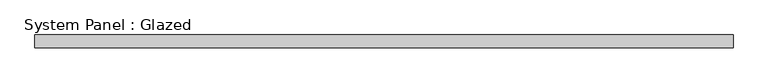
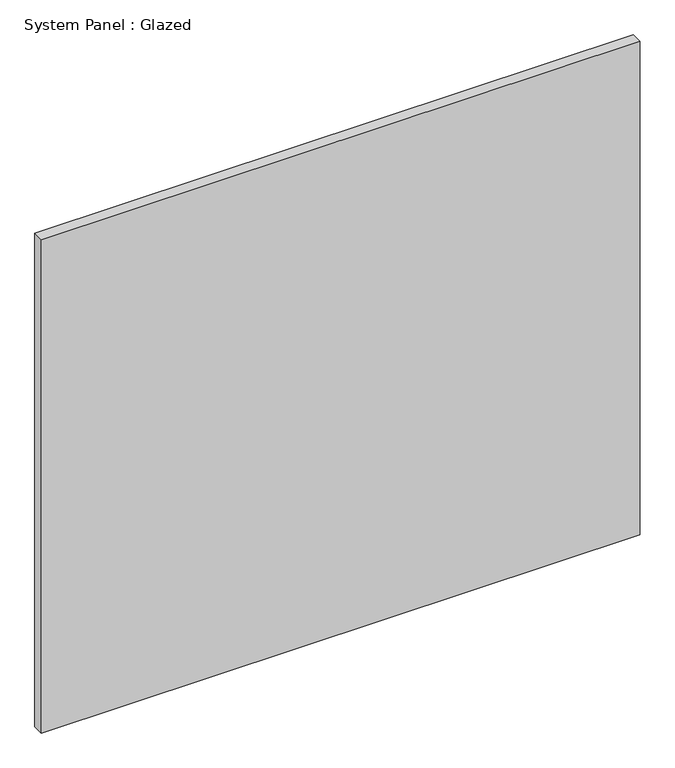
"""IFC4 building model written with IfcOpenShell, lengths in millimetres: plate geometry, System Panel : Glazed."""

from ifc_helpers import new_model, si_unit, origin, origin_with_axes, place, context, project, spatial, polyline, outline, extrude, source, transform, mapped, element, save


def system_panel_glazed_f3b0fd96(model_context):
    return source(origin(), model_context, "Body", "SweptSolid", [
        extrude(outline(polyline([(688.7606048, -49.5), (-688.7606048, -49.5), (-688.7606048, -24.5), (688.7606048, -24.5), (688.7606048, -49.5)])), origin_with_axes(), (0.0, 0.0, 1.0), 1200.0),
    ])


if __name__ == "__main__":
    model = new_model("IFC4")
    model_context = context("Model", 3, world=origin())
    ifc_project = project(units=[si_unit("LENGTHUNIT", "METRE", prefix="MILLI")], contexts=[model_context])
    site = spatial("IfcSite", under=ifc_project)
    building = spatial("IfcBuilding", under=site)
    placement = place(None, origin())
    system_panel_glazed_shape = system_panel_glazed_f3b0fd96(model_context)
    element("IfcPlate", 1, ObjectType="System Panel : Glazed", at=placement, inside=building, context=model_context, shape_type="MappedRepresentation", body=[
        mapped(system_panel_glazed_shape, transform((0.0, 0.0, 0.0), x_axis=(1.0, 0.0, 0.0), y_axis=(0.0, 1.0, 0.0), z_axis=(0.0, 0.0, 1.0))),
    ])
    save(model, "model.ifc")
